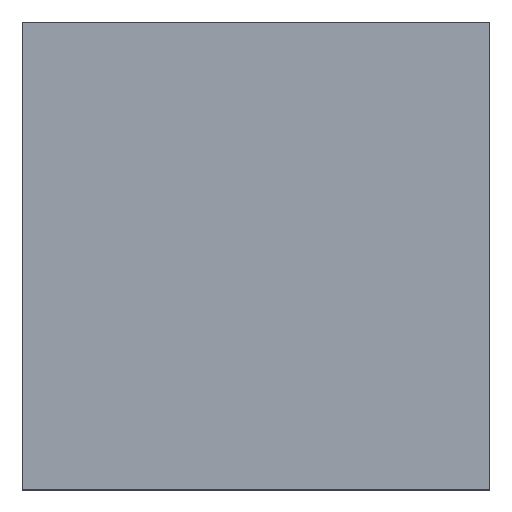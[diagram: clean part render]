
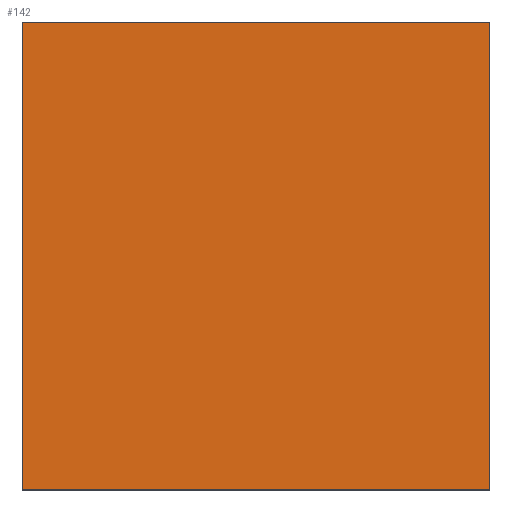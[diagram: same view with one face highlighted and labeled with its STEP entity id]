
A CAD part, top view. The second image highlights one B-rep face of the part: STEP entity #142.
In plain terms, the highlighted planar face has unit normal (0, 0, 1).
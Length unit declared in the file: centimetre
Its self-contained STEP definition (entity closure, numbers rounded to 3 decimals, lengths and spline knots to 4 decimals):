
#14 = EDGE_CURVE ( 'NONE', #543, #246, #495, .T. ) ;
#41 = EDGE_CURVE ( 'NONE', #456, #233, #48, .T. ) ;
#44 = VECTOR ( 'NONE', #104, 100. ) ;
#48 = LINE ( 'NONE', #412, #75 ) ;
#60 = PLANE ( 'NONE',  #547 ) ;
#75 = VECTOR ( 'NONE', #539, 100. ) ;
#99 = ORIENTED_EDGE ( 'NONE', *, *, #523, .T. ) ;
#104 = DIRECTION ( 'NONE',  ( 0., -1., 0. ) ) ;
#142 = ADVANCED_FACE ( 'NONE', ( #238 ), #60, .T. ) ;
#152 = VECTOR ( 'NONE', #307, 100. ) ;
#159 = CARTESIAN_POINT ( 'NONE',  ( 0., 0., 1000. ) ) ;
#169 = LINE ( 'NONE', #348, #152 ) ;
#201 = ORIENTED_EDGE ( 'NONE', *, *, #41, .T. ) ;
#212 = CARTESIAN_POINT ( 'NONE',  ( 1000., 1000., 1000. ) ) ;
#230 = CARTESIAN_POINT ( 'NONE',  ( 0., 1000., 1000. ) ) ;
#233 = VERTEX_POINT ( 'NONE', #212 ) ;
#238 = FACE_OUTER_BOUND ( 'NONE', #452, .T. ) ;
#246 = VERTEX_POINT ( 'NONE', #159 ) ;
#254 = CARTESIAN_POINT ( 'NONE',  ( 0., 1000., 1000. ) ) ;
#258 = LINE ( 'NONE', #260, #389 ) ;
#260 = CARTESIAN_POINT ( 'NONE',  ( 0., 1000., 1000. ) ) ;
#269 = DIRECTION ( 'NONE',  ( 0., 0., 1. ) ) ;
#307 = DIRECTION ( 'NONE',  ( 1., 0., 0. ) ) ;
#322 = ORIENTED_EDGE ( 'NONE', *, *, #14, .T. ) ;
#325 = ORIENTED_EDGE ( 'NONE', *, *, #544, .T. ) ;
#348 = CARTESIAN_POINT ( 'NONE',  ( 0., 0., 1000. ) ) ;
#389 = VECTOR ( 'NONE', #433, 100. ) ;
#392 = CARTESIAN_POINT ( 'NONE',  ( 1000., 0., 1000. ) ) ;
#412 = CARTESIAN_POINT ( 'NONE',  ( 1000., 1000., 1000. ) ) ;
#433 = DIRECTION ( 'NONE',  ( -1., 0., 0. ) ) ;
#438 = DIRECTION ( 'NONE',  ( 1., 0., 0. ) ) ;
#452 = EDGE_LOOP ( 'NONE', ( #322, #99, #201, #325 ) ) ;
#456 = VERTEX_POINT ( 'NONE', #392 ) ;
#493 = CARTESIAN_POINT ( 'NONE',  ( 0., 0., 1000. ) ) ;
#495 = LINE ( 'NONE', #230, #44 ) ;
#523 = EDGE_CURVE ( 'NONE', #246, #456, #169, .T. ) ;
#539 = DIRECTION ( 'NONE',  ( 0., 1., 0. ) ) ;
#543 = VERTEX_POINT ( 'NONE', #254 ) ;
#544 = EDGE_CURVE ( 'NONE', #233, #543, #258, .T. ) ;
#547 = AXIS2_PLACEMENT_3D ( 'NONE', #493, #269, #438 ) ;
